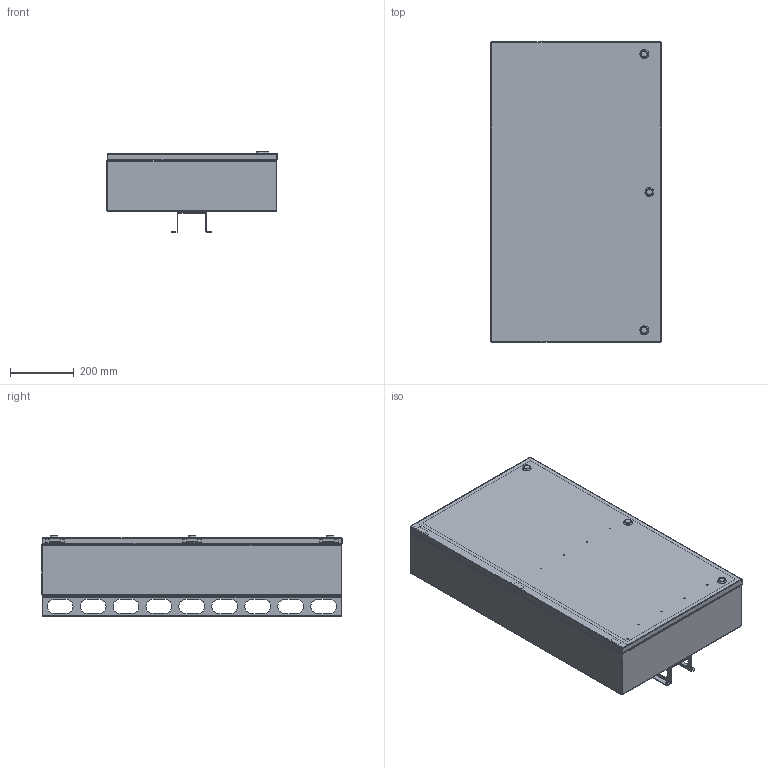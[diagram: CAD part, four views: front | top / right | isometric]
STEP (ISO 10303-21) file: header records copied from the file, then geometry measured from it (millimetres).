
FILE_DESCRIPTION (( 'STEP AP214' ), '1' );
FILE_NAME ('Enclosure Assembly, ENCL-PCxx.STEP', '2019-04-17T16:02:01', ( '' ), ( '' ), 'SwSTEP 2.0', 'SolidWorks 2017', '' );
FILE_SCHEMA (( 'AUTOMOTIVE_DESIGN' ));
Length unit declared in the file: millimetre
Products named in the file (31): PC Wall Mount Bracket, WB; PC Bracket Part 3 of 3; PC Bracket Part 2 of 3; PC Bracket Part 1 of 3; self-clinching nut_pmi_PEM SS-032-2 ZI--N; PC Mounting Bracket Body; self-clinching nut_pmm_PEM S-M4-2 ZI--N; PC Gasket for Mounting, 10857; PC Service Panel Body; self-clinching nut_pmi_PEM S-632-2 ZI--N; PC Enclosure Door; PC Service Panel, 10856; MK-PC10-STD; PC Enclosure Body; PC Gasket for Door, 10855; Hinge Pin; flush stud_pmi_PEM FH-632-6 ZI--N; Hinge Bracket; flush stud_pmi_PEM FH-632-5 ZI--N; Hinge Bracket, Welded; flush stud_pmi_PEM FHS-632-8 ---N; PC Wire Duct; PC Mounting Bracket, 10873; PC Stiffener Bracket; Enclosure Assembly, ENCL-PCxx; PC Latch
Assembly tree (82 placements, depth 3):
  Enclosure Assembly, ENCL-PCxx
    PC Enclosure Body
      PC Enclosure Body
      flush stud_pmi_PEM FH-632-6 ZI--N  x6
    PC Enclosure Door
      PC Enclosure Door
      Hinge Bracket, Welded  x3
      flush stud_pmi_PEM FHS-632-8 ---N  x9
    Hinge Pin  x3
    Hinge Bracket  x3
    PC Gasket for Door, 10855
    PC Service Panel, 10856
      PC Service Panel Body
      self-clinching nut_pmi_PEM S-632-2 ZI--N  x12
      self-clinching nut_pmi_PEM SS-032-2 ZI--N  x3
    PC Gasket for Mounting, 10857
    PC Mounting Bracket, 10873
      PC Mounting Bracket Body
      self-clinching nut_pmm_PEM S-M4-2 ZI--N  x12
    PC Bracket Part 1 of 3
      PC Bracket Part 1 of 3
      self-clinching nut_pmi_PEM S-632-2 ZI--N
      flush stud_pmi_PEM FH-632-5 ZI--N
    PC Bracket Part 2 of 3
      PC Bracket Part 2 of 3
      flush stud_pmi_PEM FH-632-5 ZI--N
      self-clinching nut_pmi_PEM S-632-2 ZI--N
    PC Bracket Part 3 of 3
      PC Bracket Part 3 of 3
      self-clinching nut_pmi_PEM S-632-2 ZI--N
      flush stud_pmi_PEM FH-632-5 ZI--N  x3
    PC Wire Duct
    PC Wall Mount Bracket, WB
    PC Stiffener Bracket
    PC Latch  x3
    MK-PC10-STD
Bounding box: 534.51 x 940.63 x 252.77 mm (x, y, z)
Volume: 5022176 mm3; surface area: 5307124.4 mm2
Topology: 72 solids, 99 shells, 6605 faces, 18257 edges, 11821 vertices
Faces by surface type: plane 4730, cylinder 1236, cone 558, bspline 41, torus 40
Entity records: 70895 total; most frequent: CARTESIAN_POINT 14370, ORIENTED_EDGE 11652, DIRECTION 11290, EDGE_CURVE 5838, LINE 4384, VECTOR 4384, VERTEX_POINT 3653, AXIS2_PLACEMENT_3D 3453
